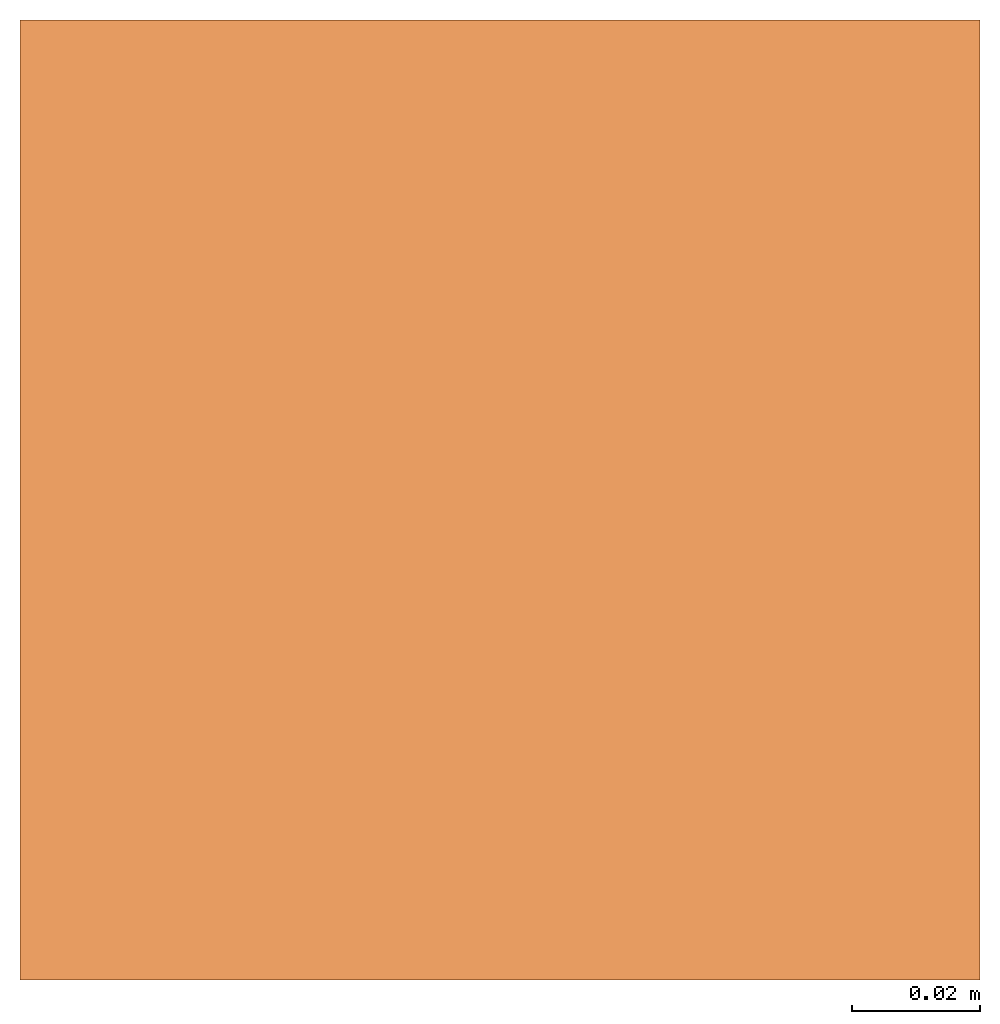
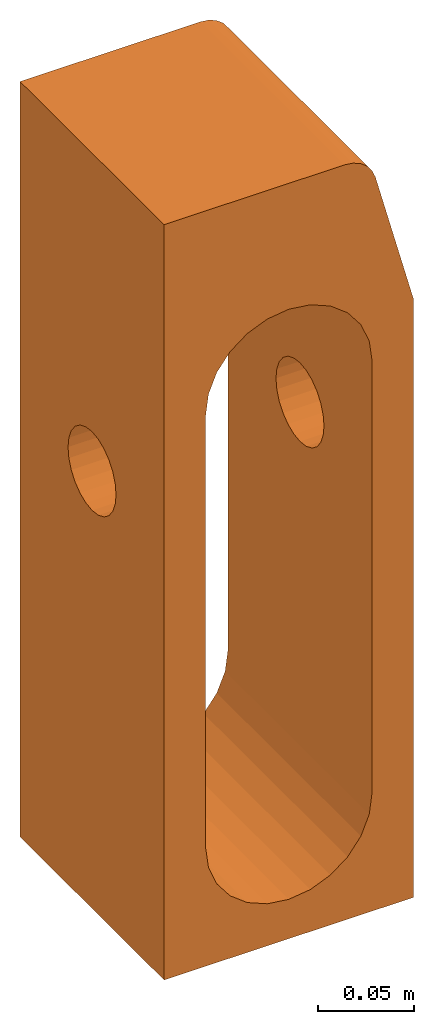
# One storey: 1 proxy.
"""IFC2X3 building model written with IfcOpenShell, lengths in millimetres."""

from ifc_helpers import new_model, entity, si_unit, converted_unit, direction, frame, origin, place, context, subcontext, project, spatial, faceted_brep, source, transform, mapped, material, element, save


model = new_model("IFC2X3")

# Units and contexts
model_context = context("Model", 3, precision=1e-06, world=origin(), true_north=direction((2.0, 6.12303176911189e-17, 1.0)))
context_of_model = context(None, 3, precision=1e-06, world=origin(), true_north=direction((2.0, 6.12303176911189e-17, 1.0)))
body_context = subcontext(model_context, "Body", "Model", "MODEL_VIEW")
ifc_project = project(units=[si_unit("LENGTHUNIT", "METRE", prefix="MILLI"), si_unit("AREAUNIT", "SQUARE_METRE", prefix="MILLI"), si_unit("VOLUMEUNIT", "CUBIC_METRE", prefix="MILLI"), converted_unit("PLANEANGLEUNIT", "DEGREE", entity("IfcRatioMeasure", 0.0174532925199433), si_unit("PLANEANGLEUNIT", "RADIAN"), dimensions=[0, 0, 0, 0, 0, 0, 0]), si_unit("TIMEUNIT", "SECOND")], contexts=[model_context, context_of_model])

# Site, building, storey
site_placement = place(None, origin())
site = spatial("IfcSite", under=ifc_project, at=site_placement, Name="Default", CompositionType="ELEMENT")
building_placement = place(site_placement, origin())
building = spatial("IfcBuilding", under=site, at=building_placement, CompositionType="ELEMENT")
storey_placement = place(building_placement, frame((0.0, 0.0, -300.0)))
storey = spatial("IfcBuildingStorey", under=building, at=storey_placement, Name="T.O. Fnd. Wall", CompositionType="ELEMENT", Elevation=-300.0)

# Proxy
ifc_material = material(Name="ACO Polymer Concrete.")
shared_shape = source(origin(), body_context, "Body", "Brep", [
    faceted_brep([(-75.0, 87.5000000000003, -55.3493649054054), (-50.0, 87.5000000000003, -55.3493649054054), (-50.0, 81.4704761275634, -52.8518543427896), (-75.0, 81.4704761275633, -52.8518543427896), (-50.0, 75.0, -52.0), (-75.0, 75.0, -52.0), (-75.0, 99.1481456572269, -70.5295238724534), (-50.0, 99.1481456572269, -70.5295238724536), (-50.0, 96.6506350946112, -64.5000000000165), (-75.0, 96.6506350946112, -64.5000000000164), (-50.0, 92.677669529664, -59.3223304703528), (-75.0, 92.677669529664, -59.3223304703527), (-75.0, 100.0, -77.0), (-50.0, 100.0, -77.0), (-75.0, 99.1481456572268, -83.4704761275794), (-50.0, 99.1481456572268, -83.4704761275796), (-50.0, 96.650635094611, -89.5000000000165), (-75.0, 96.650635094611, -89.5000000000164), (-50.0, 87.5, -98.6506350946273), (-50.0, 92.6776695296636, -94.6776695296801), (-75.0, 92.6776695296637, -94.67766952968), (-75.0, 87.5, -98.6506350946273), (-50.0, 81.470476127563, -101.148145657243), (-75.0, 81.470476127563, -101.148145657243), (-75.0, 75.0, -102.0), (-50.0, 75.0, -102.0), (-75.0, 62.5000000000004, -98.6506350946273), (-50.0, 62.5000000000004, -98.6506350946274), (-50.0, 68.5295238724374, -101.148145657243), (-75.0, 68.5295238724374, -101.148145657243), (-75.0, 50.8518543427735, -83.4704761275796), (-50.0, 50.8518543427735, -83.4704761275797), (-50.0, 53.3493649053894, -89.5000000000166), (-75.0, 53.3493649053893, -89.5000000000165), (-50.0, 57.3223304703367, -94.6776695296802), (-75.0, 57.3223304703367, -94.6776695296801), (-75.0, 50.0, -77.0), (-50.0, 50.0, -77.0), (-75.0, 53.349364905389, -64.5000000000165), (-50.0, 53.3493649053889, -64.5000000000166), (-50.0, 50.8518543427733, -70.5295238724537), (-75.0, 50.8518543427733, -70.5295238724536), (-75.0, 57.3223304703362, -59.3223304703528), (-50.0, 57.3223304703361, -59.3223304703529), (-50.0, 68.5295238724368, -52.8518543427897), (-50.0, 62.4999999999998, -55.3493649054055), (-75.0, 62.4999999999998, -55.3493649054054), (-75.0, 68.5295238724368, -52.8518543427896), (-75.0, 150.0, -355.0), (-35.3553390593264, 150.0, -315.355339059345), (-25.0, 150.0, -323.301270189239), (-43.3012701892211, 150.0, -305.0), (-12.940952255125, 150.0, -328.296291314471), (0.0, 150.0, -330.0), (-50.0, 150.0, -5.0), (-50.0, 150.0, -280.0), (-75.0, 150.0, 125.0), (-48.2962913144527, 150.0, -292.940952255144), (-48.2962913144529, 150.0, 7.9409522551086), (12.940952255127, 150.0, -328.29629131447), (75.0, 150.0, -355.0), (25.0, 150.0, -323.301270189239), (35.3553390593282, 150.0, -315.355339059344), (43.3012701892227, 150.0, -305.0), (75.0, 150.0, 25.0), (50.0, 150.0, -280.0), (50.0, 150.0, -5.0), (48.2962913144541, 150.0, -292.940952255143), (-35.3553390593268, 150.0, 30.3553390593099), (-43.3012701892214, 150.0, 20.0), (-25.0, 150.0, 38.3012701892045), (33.6258679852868, 150.0, 125.0), (-12.9409522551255, 150.0, 43.296291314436), (12.9409522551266, 150.0, 43.296291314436), (0.0, 150.0, 45.0), (51.978458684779, 150.0, 110.917561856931), (25.0, 150.0, 38.3012701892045), (43.3012701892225, 150.0, 20.0), (35.3553390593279, 150.0, 30.3553390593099), (48.2962913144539, 150.0, 7.9409522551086), (43.1258679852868, 150.0, 122.454482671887), (47.0608968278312, 150.0, 119.435028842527), (50.0803506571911, 150.0, 115.499999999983), (38.5434298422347, 150.0, 124.352590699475), (-12.9409522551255, 0.0, 43.296291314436), (0.0, 0.0, 45.0), (33.6258679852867, 0.0, 125.0), (-75.0, 0.0, 125.0), (12.9409522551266, 0.0, 43.296291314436), (51.978458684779, 0.0, 110.917561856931), (-43.3012701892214, 0.0, 20.0), (-35.3553390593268, 0.0, 30.3553390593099), (-25.0, 0.0, 38.3012701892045), (-48.2962913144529, 0.0, 7.9409522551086), (25.0, 0.0, 38.3012701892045), (43.1258679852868, 0.0, 122.454482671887), (38.5434298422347, 0.0, 124.352590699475), (47.0608968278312, 0.0, 119.435028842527), (50.0803506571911, 0.0, 115.499999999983), (35.3553390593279, 0.0, 30.3553390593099), (43.3012701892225, 0.0, 20.0), (75.0, 0.0, 25.0), (48.2962913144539, 0.0, 7.9409522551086), (50.0, 0.0, -5.0), (-75.0, 0.0, -355.0), (-50.0, 0.0, -280.0), (-50.0, 0.0, -5.0), (-48.2962913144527, 0.0, -292.940952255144), (-43.3012701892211, 0.0, -305.0), (-35.3553390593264, 0.0, -315.355339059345), (-25.0, 0.0, -323.301270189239), (-12.940952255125, 0.0, -328.296291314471), (0.0, 0.0, -330.0), (75.0, 0.0, -355.0), (48.2962913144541, 0.0, -292.940952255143), (43.3012701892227, 0.0, -305.0), (50.0, 0.0, -280.0), (12.940952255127, 0.0, -328.29629131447), (35.3553390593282, 0.0, -315.355339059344), (25.0, 0.0, -323.301270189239), (75.0, 53.3493649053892, -89.5000000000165), (75.0, 50.8518543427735, -83.4704761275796), (75.0, 57.3223304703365, -94.6776695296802), (75.0, 75.0, -102.0), (75.0, 68.5295238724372, -101.148145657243), (75.0, 62.5000000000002, -98.6506350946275), (75.0, 50.0, -77.0), (75.0, 50.8518543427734, -70.5295238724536), (75.0, 53.3493649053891, -64.5000000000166), (75.0, 57.3223304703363, -59.3223304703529), (75.0, 62.5, -55.3493649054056), (75.0, 68.529523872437, -52.8518543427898), (75.0, 75.0, -52.0), (75.0, 87.5, -98.6506350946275), (75.0, 81.4704761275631, -101.148145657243), (75.0, 92.6776695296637, -94.6776695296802), (75.0, 99.1481456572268, -83.4704761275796), (75.0, 96.650635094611, -89.5000000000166), (75.0, 100.0, -77.0), (75.0, 81.4704761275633, -52.8518543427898), (75.0, 87.5000000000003, -55.3493649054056), (75.0, 96.6506350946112, -64.5000000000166), (75.0, 99.1481456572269, -70.5295238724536), (75.0, 92.6776695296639, -59.3223304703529), (50.0, 50.8518543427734, -70.5295238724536), (50.0, 50.0, -77.0), (50.0, 53.3493649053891, -64.5000000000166), (50.0, 50.8518543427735, -83.4704761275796), (50.0, 68.529523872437, -52.8518543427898), (50.0, 62.5, -55.3493649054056), (50.0, 57.3223304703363, -59.3223304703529), (50.0, 75.0, -52.0), (50.0, 53.3493649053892, -89.5000000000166), (50.0, 57.3223304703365, -94.6776695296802), (50.0, 62.5000000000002, -98.6506350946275), (50.0, 68.5295238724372, -101.148145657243), (50.0, 75.0, -102.0), (50.0, 81.4704761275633, -52.8518543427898), (50.0, 87.5000000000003, -55.3493649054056), (50.0, 92.6776695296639, -59.3223304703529), (50.0, 96.6506350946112, -64.5000000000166), (50.0, 99.1481456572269, -70.5295238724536), (50.0, 100.0, -77.0), (50.0, 87.5, -98.6506350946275), (50.0, 92.6776695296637, -94.6776695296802), (50.0, 81.4704761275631, -101.148145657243), (50.0, 99.1481456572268, -83.4704761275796), (50.0, 96.650635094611, -89.5000000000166)], [[[0, 1, 2, 3]], [[3, 2, 4, 5]], [[6, 7, 8, 9]], [[9, 8, 10, 11]], [[11, 10, 1, 0]], [[7, 6, 12, 13]], [[14, 15, 13, 12]], [[16, 15, 14, 17]], [[18, 19, 20, 21]], [[19, 16, 17, 20]], [[22, 18, 21, 23]], [[23, 24, 25, 22]], [[26, 27, 28, 29]], [[29, 28, 25, 24]], [[30, 31, 32, 33]], [[33, 32, 34, 35]], [[35, 34, 27, 26]], [[31, 30, 36, 37]], [[38, 39, 40, 41]], [[42, 43, 39, 38]], [[44, 45, 46, 47]], [[46, 45, 43, 42]], [[4, 44, 47, 5]], [[41, 40, 37, 36]], [[48, 49, 50]], [[49, 48, 51]], [[50, 52, 48]], [[48, 52, 53]], [[54, 55, 48, 56]], [[57, 51, 48]], [[54, 56, 58]], [[55, 57, 48]], [[53, 59, 60, 48]], [[60, 61, 62]], [[61, 60, 59]], [[62, 63, 60]], [[64, 60, 65, 66]], [[67, 65, 60]], [[63, 67, 60]], [[68, 69, 56]], [[68, 56, 70]], [[56, 71, 72, 70]], [[73, 74, 71]], [[71, 74, 72]], [[75, 76, 73, 71]], [[69, 58, 56]], [[64, 77, 78, 75]], [[79, 64, 66]], [[64, 79, 77]], [[71, 80, 81, 82]], [[82, 75, 71]], [[75, 78, 76]], [[71, 83, 80]], [[84, 85, 86, 87]], [[88, 89, 86, 85]], [[90, 91, 87]], [[92, 84, 87]], [[91, 92, 87]], [[87, 93, 90]], [[89, 88, 94]], [[95, 96, 86, 97]], [[98, 97, 86, 89]], [[99, 100, 101, 89]], [[101, 100, 102]], [[101, 102, 103]], [[94, 99, 89]], [[104, 105, 106, 87]], [[105, 104, 107]], [[106, 93, 87]], [[108, 104, 109]], [[104, 108, 107]], [[110, 109, 104]], [[111, 110, 104]], [[112, 111, 104, 113]], [[114, 115, 113]], [[116, 113, 101, 103]], [[114, 113, 116]], [[117, 112, 113]], [[118, 119, 113]], [[113, 119, 117]], [[118, 113, 115]], [[87, 41, 36, 104]], [[41, 87, 38]], [[47, 46, 87]], [[42, 38, 87]], [[46, 42, 87]], [[5, 47, 87, 56]], [[104, 30, 33]], [[30, 104, 36]], [[104, 33, 35]], [[35, 26, 104]], [[104, 29, 24, 48]], [[26, 29, 104]], [[3, 5, 56]], [[0, 3, 56]], [[11, 56, 9]], [[56, 11, 0]], [[6, 9, 56]], [[12, 6, 56, 48]], [[21, 20, 48]], [[23, 21, 48]], [[14, 12, 48]], [[17, 48, 20]], [[48, 17, 14]], [[23, 48, 24]], [[113, 104, 48, 60]], [[113, 120, 121, 101]], [[120, 113, 122]], [[123, 124, 113, 60]], [[125, 122, 113]], [[124, 125, 113]], [[101, 126, 127]], [[126, 101, 121]], [[101, 127, 128]], [[128, 129, 101]], [[130, 131, 101]], [[129, 130, 101]], [[101, 131, 132]], [[133, 134, 60]], [[135, 133, 60]], [[136, 137, 60, 64]], [[60, 137, 135]], [[64, 138, 136]], [[134, 123, 60]], [[139, 140, 64]], [[132, 139, 64, 101]], [[141, 142, 64]], [[143, 64, 140]], [[64, 143, 141]], [[142, 138, 64]], [[87, 86, 71, 56]], [[103, 144, 145]], [[144, 103, 146]], [[103, 145, 147]], [[148, 149, 103]], [[150, 146, 103]], [[149, 150, 103]], [[151, 148, 103, 66]], [[147, 152, 116, 103]], [[116, 152, 153]], [[153, 154, 116]], [[116, 155, 156, 65]], [[154, 155, 116]], [[157, 151, 66]], [[158, 157, 66]], [[159, 66, 160]], [[66, 159, 158]], [[161, 160, 66]], [[66, 162, 161]], [[163, 164, 65]], [[165, 163, 65]], [[166, 162, 66, 65]], [[167, 65, 164]], [[65, 167, 166]], [[165, 65, 156]], [[115, 114, 67, 63]], [[118, 115, 63, 62]], [[117, 119, 61, 59]], [[119, 118, 62, 61]], [[112, 117, 59, 53]], [[114, 116, 65, 67]], [[110, 111, 52, 50]], [[109, 110, 50, 49]], [[107, 108, 51, 57]], [[108, 109, 49, 51]], [[105, 107, 57, 55]], [[53, 52, 111, 112]], [[105, 32, 31, 106]], [[32, 105, 34]], [[25, 28, 105, 55]], [[27, 34, 105]], [[28, 27, 105]], [[106, 37, 40]], [[37, 106, 31]], [[106, 40, 39]], [[39, 43, 106]], [[45, 44, 106]], [[43, 45, 106]], [[106, 44, 4]], [[18, 22, 55]], [[19, 18, 55]], [[15, 16, 55, 54]], [[55, 16, 19]], [[54, 13, 15]], [[22, 25, 55]], [[2, 1, 54]], [[4, 2, 54, 106]], [[8, 7, 54]], [[10, 54, 1]], [[54, 10, 8]], [[7, 13, 54]], [[75, 89, 101, 64]], [[89, 75, 82, 98]], [[98, 82, 81, 97]], [[97, 81, 80, 95]], [[95, 80, 83, 96]], [[96, 83, 71, 86]], [[90, 93, 58, 69]], [[91, 90, 69, 68]], [[84, 92, 70, 72]], [[92, 91, 68, 70]], [[85, 84, 72, 74]], [[93, 106, 54, 58]], [[94, 88, 73, 76]], [[99, 94, 76, 78]], [[102, 100, 77, 79]], [[100, 99, 78, 77]], [[103, 102, 79, 66]], [[74, 73, 88, 85]], [[155, 124, 123, 156]], [[154, 125, 124, 155]], [[152, 120, 122, 153]], [[153, 122, 125, 154]], [[147, 121, 120, 152]], [[121, 147, 145, 126]], [[144, 127, 126, 145]], [[146, 128, 127, 144]], [[132, 131, 148, 151]], [[150, 129, 128, 146]], [[150, 149, 130, 129]], [[130, 149, 148, 131]], [[157, 139, 132, 151]], [[158, 140, 139, 157]], [[160, 141, 143, 159]], [[159, 143, 140, 158]], [[161, 142, 141, 160]], [[142, 161, 162, 138]], [[135, 137, 167, 164]], [[134, 133, 163, 165]], [[133, 135, 164, 163]], [[123, 134, 165, 156]], [[136, 166, 167, 137]], [[166, 136, 138, 162]]]),
])
proxy_placement = place(storey_placement, frame((-5682.99544306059, -10247.1166238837, 300.0)))
element("IfcBuildingElementProxy", 1, at=proxy_placement, inside=storey, material=ifc_material, Name="Civil-Drainage-Channel-ACO-KerbDrain-HB480(amar):4943 - Cable Loop - 150mm LG:4943 - Cable Loop - 150mm LG", ObjectType="4943 - Cable Loop - 150mm LG", CompositionType="ELEMENT", context=body_context, shape_type="MappedRepresentation", body=[
    mapped(shared_shape, transform((0.0, 0.0, 0.0), scale=1.0)),
])

save(model, "model.ifc")
